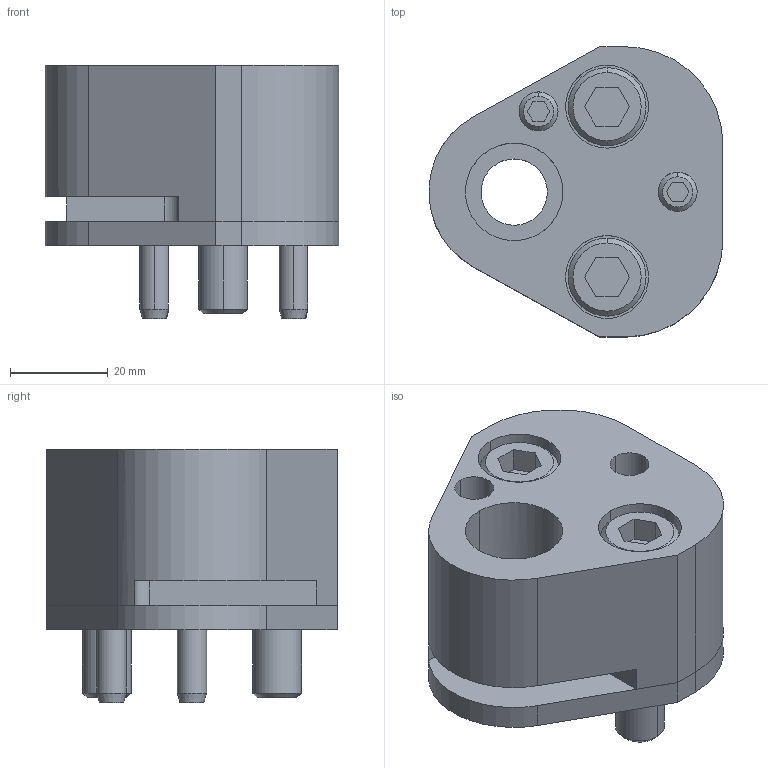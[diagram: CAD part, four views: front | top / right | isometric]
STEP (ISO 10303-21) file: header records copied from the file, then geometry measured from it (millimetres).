
FILE_DESCRIPTION(/* description */ (''),/* implementation_level */ '2;1');
FILE_NAME(/* name */ '3d_crn-fd20_03647_r00.stp',/* time_stamp */ '2011-01-10T14:16:22+09:00',/* author */ ('MISUMI'),/* organization */ (''),/* preprocessor_version */ 'ST-DEVELOPER v11',/* originating_system */ 'UGS - NX 5.0',/* authorisation */ '');
FILE_SCHEMA (('CONFIG_CONTROL_DESIGN'));
Length unit declared in the file: millimetre
Products named in the file (1): 3d_crn-fd20_03647_r00
Bounding box: 60.24 x 59.5 x 52 mm (x, y, z)
Volume: 85446.8 mm3; surface area: 28969.2 mm2
Topology: 8 solids, 8 shells, 156 faces, 358 edges, 231 vertices
Faces by surface type: plane 69, cylinder 61, cone 26
Entity records: 4583 total; most frequent: DIRECTION 815, CARTESIAN_POINT 803, ORIENTED_EDGE 716, EDGE_CURVE 358, AXIS2_PLACEMENT_3D 307, VERTEX_POINT 231, LINE 201, VECTOR 201
